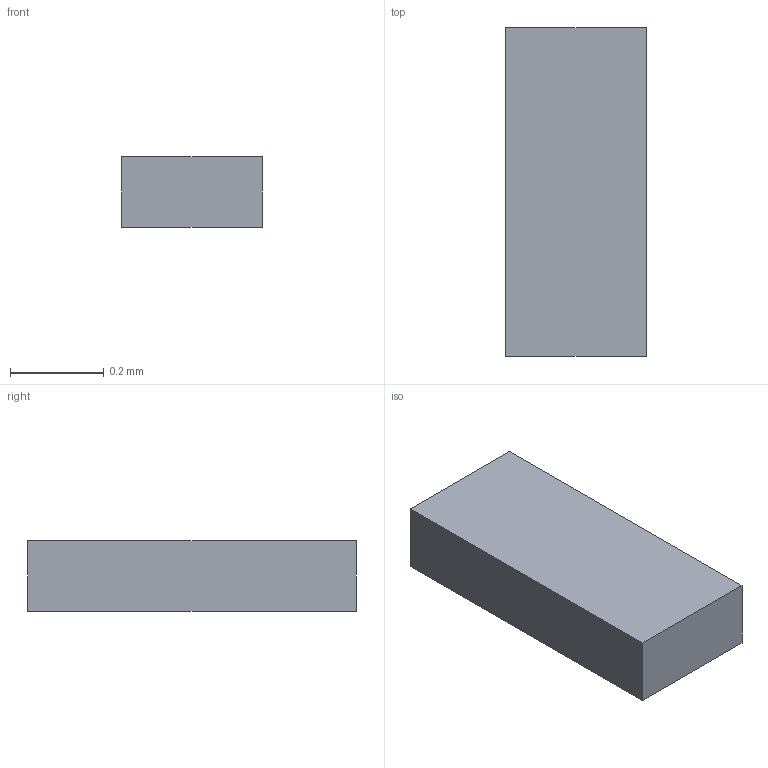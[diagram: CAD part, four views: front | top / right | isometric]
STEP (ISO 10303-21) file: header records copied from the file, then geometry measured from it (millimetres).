
FILE_DESCRIPTION(/* description */ ('STEP AP242 Edition 2','CAx-IF Rec.Pracs.---Representation and Presentation of Product Manufacturing Information (PMI)---4.0---2014-10-13','CAx-IF Rec.Pracs.---3D Tessellated Geometry---0.4---2014-09-14','2;1','CAx-IF Rec.Pracs.---User Defined Attributes---1.5---2016-08-15'),/* implementation_level */ '2;1');
FILE_NAME(/* name */ 'Assembly 1 - TF-SMD_TF-15-15~TF-SMD_TF-15-15~nxQB (10)',/* time_stamp */ '2026-04-02T09:55:29Z',/* author */ (''),/* organization */ (''),/* preprocessor_version */ 'ST-DEVELOPER v20',/* originating_system */ 'ONSHAPE BY PTC INC, 1.212',/* authorisation */ ' ');
FILE_SCHEMA (('AP242_MANAGED_MODEL_BASED_3D_ENGINEERING_MIM_LF { 1 0 10303 442 3 1 4 }'));
Length unit declared in the file: metre
Products named in the file (1): TF-SMD_TF-15-15~TF-SMD_TF-15-15~nxQB
Bounding box: 0.3 x 0.7 x 0.15 mm (x, y, z)
Volume: 0 mm3; surface area: 0.7 mm2
Topology: 1 solids, 1 shells, 6 faces, 12 edges, 8 vertices
Faces by surface type: plane 6
Entity records: 221 total; most frequent: CARTESIAN_POINT 27, DIRECTION 26, ORIENTED_EDGE 24, EDGE_CURVE 12, LINE 12, VECTOR 12, VERTEX_POINT 8, PRESENTATION_STYLE_ASSIGNMENT 7
